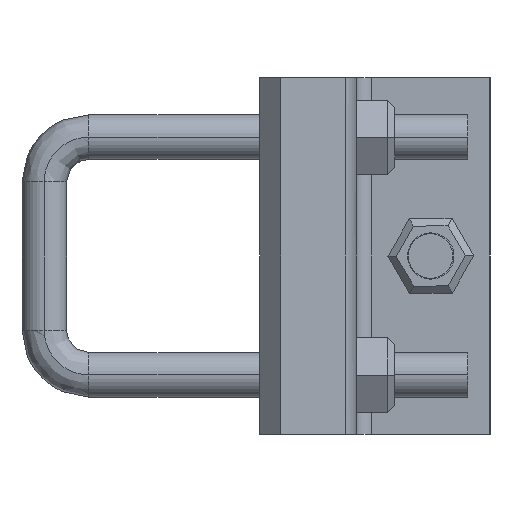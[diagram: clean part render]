
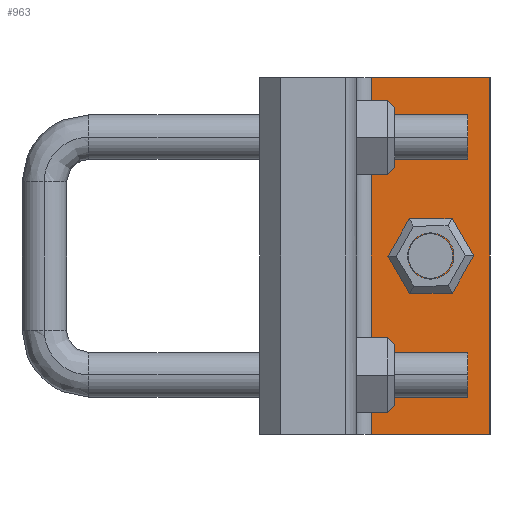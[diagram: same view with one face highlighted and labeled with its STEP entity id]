
A CAD part, left-side view. The second image highlights one B-rep face of the part: STEP entity #963.
In plain terms, the highlighted planar face has unit normal (-1, 0, 0).
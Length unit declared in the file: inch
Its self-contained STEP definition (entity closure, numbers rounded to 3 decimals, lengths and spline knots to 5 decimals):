
#957=EDGE_CURVE('',#2288,#2289,#2290,.T.);
#963=ADVANCED_FACE('',(#2297,#2298),#2299,.T.);
#1037=EDGE_CURVE('',#2288,#2406,#2407,.T.);
#1349=EDGE_CURVE('',#2172,#2289,#2834,.T.);
#1705=EDGE_CURVE('',#2406,#2172,#3258,.T.);
#2172=VERTEX_POINT('',#4043);
#2288=VERTEX_POINT('',#4235);
#2289=VERTEX_POINT('',#4236);
#2290=LINE('',#4237,#4238);
#2297=FACE_OUTER_BOUND('',#4247,.T.);
#2298=FACE_BOUND('',#4248,.T.);
#2299=PLANE('',#4249);
#2406=VERTEX_POINT('',#4433);
#2407=LINE('',#4434,#4435);
#2834=LINE('',#5331,#5332);
#3258=LINE('',#6369,#6370);
#4043=CARTESIAN_POINT('',(-9.0,0.0,3.0));
#4235=CARTESIAN_POINT('',(-9.0,1.0,0.0));
#4236=CARTESIAN_POINT('',(-9.0,1.0,3.0));
#4237=CARTESIAN_POINT('',(-9.0,1.0,0.0));
#4238=VECTOR('',#6924,1.0);
#4247=EDGE_LOOP('',(#6935,#6936,#6937,#6938));
#4248=EDGE_LOOP('',(#6939,#6940));
#4249=AXIS2_PLACEMENT_3D('',#6941,#6942,#6943);
#4433=CARTESIAN_POINT('',(-9.0,0.0,0.0));
#4434=CARTESIAN_POINT('',(-9.0,1.0,0.0));
#4435=VECTOR('',#7083,1.0);
#5331=CARTESIAN_POINT('',(-9.0,1.0,3.0));
#5332=VECTOR('',#7621,1.);
#6369=CARTESIAN_POINT('',(-9.0,0.0,0.0));
#6370=VECTOR('',#8166,1.0);
#6924=DIRECTION('',(0.0,0.0,1.0));
#6935=ORIENTED_EDGE('',*,*,#1349,.T.);
#6936=ORIENTED_EDGE('',*,*,#957,.F.);
#6937=ORIENTED_EDGE('',*,*,#1037,.T.);
#6938=ORIENTED_EDGE('',*,*,#1705,.T.);
#6939=ORIENTED_EDGE('',*,*,#8252,.F.);
#6940=ORIENTED_EDGE('',*,*,#8289,.F.);
#6941=CARTESIAN_POINT('',(-9.0,0.5,0.0));
#6942=DIRECTION('',(-1.0,0.0,0.0));
#6943=DIRECTION('',(0.0,-1.0,0.0));
#7083=DIRECTION('',(0.0,-1.0,0.0));
#7621=DIRECTION('',(0.0,1.0,0.0));
#8166=DIRECTION('',(0.0,0.0,1.0));
#8252=EDGE_CURVE('',#8503,#8499,#8505,.T.);
#8289=EDGE_CURVE('',#8499,#8503,#8548,.T.);
#8499=VERTEX_POINT('',#8779);
#8503=VERTEX_POINT('',#8784);
#8505=CIRCLE('',#8787,0.1875);
#8548=CIRCLE('',#8834,0.1875);
#8779=CARTESIAN_POINT('',(-9.0,0.68737,1.5));
#8784=CARTESIAN_POINT('',(-9.0,0.31237,1.5));
#8787=AXIS2_PLACEMENT_3D('',#9065,#9066,#9067);
#8834=AXIS2_PLACEMENT_3D('',#9084,#9085,#9086);
#9065=CARTESIAN_POINT('',(-9.0,0.49987,1.5));
#9066=DIRECTION('',(-1.0,0.0,0.0));
#9067=DIRECTION('',(0.0,1.0,0.0));
#9084=CARTESIAN_POINT('',(-9.0,0.49987,1.5));
#9085=DIRECTION('',(-1.0,0.0,0.0));
#9086=DIRECTION('',(0.0,1.0,0.0));
